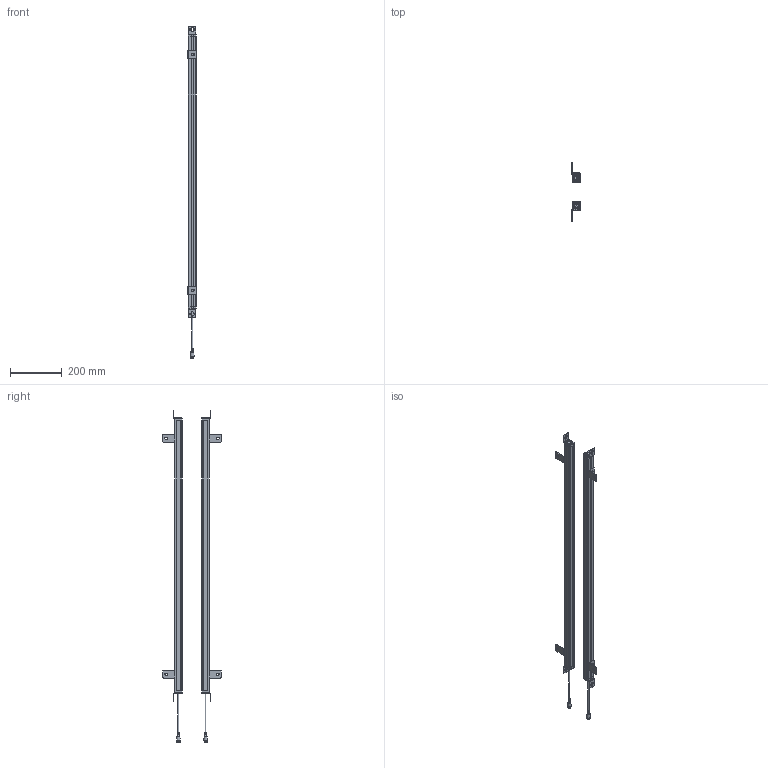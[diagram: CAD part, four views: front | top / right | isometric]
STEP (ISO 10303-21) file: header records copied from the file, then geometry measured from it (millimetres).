
FILE_DESCRIPTION(/* description */ (''),/* implementation_level */ '2;1');
FILE_NAME(/* name */ '5220（29x30）.stp',/* time_stamp */ '2023-04-28T14:35:12+08:00',/* author */ (''),/* organization */ (''),/* preprocessor_version */ 'ST-DEVELOPER v16.7',/* originating_system */ 'SIEMENS PLM Software NX 12.0',/* authorisation */ '');
FILE_SCHEMA (('AUTOMOTIVE_DESIGN { 1 0 10303 214 3 1 1 1 }'));
Products named in the file (1): 5220（29x30）_stp
Bounding box: 32.03 x 223.99 x 1281 mm (x, y, z)
Volume: 666792.3 mm3; surface area: 687819.9 mm2
Topology: 34 solids, 34 shells, 1610 faces, 4267 edges, 2771 vertices
Faces by surface type: plane 750, cylinder 648, bspline 88, sphere 36, cone 36, torus 32, extrusion 20
Full cylindrical faces by diameter (mm): 1.533 x6, 4.4 x4, 9 x2, 12.5 x2
Entity records: 56427 total; most frequent: CARTESIAN_POINT 16064, DIRECTION 8330, ORIENTED_EDGE 8324, EDGE_CURVE 4162, AXIS2_PLACEMENT_3D 2918, VERTEX_POINT 2696, VECTOR 2494, LINE 2474
